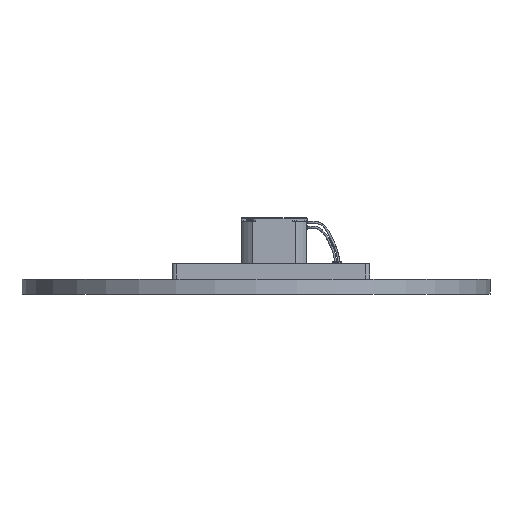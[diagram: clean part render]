
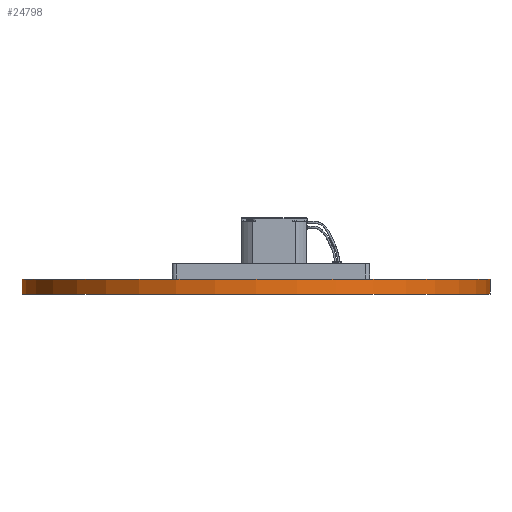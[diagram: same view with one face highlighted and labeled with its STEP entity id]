
A CAD part, front view. The second image highlights one B-rep face of the part: STEP entity #24798.
In plain terms, the highlighted cylindrical face has radius 150 mm (diameter 300 mm), a partial arc.
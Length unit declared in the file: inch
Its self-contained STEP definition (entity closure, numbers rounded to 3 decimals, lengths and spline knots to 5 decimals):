
#20 = DIRECTION ( 'NONE',  ( 0., 0., 1. ) ) ;
#42 = DIRECTION ( 'NONE',  ( 1., 0., 0. ) ) ;
#324 = ORIENTED_EDGE ( 'NONE', *, *, #35891, .F. ) ;
#334 = VECTOR ( 'NONE', #1323, 39.37008 ) ;
#971 = CIRCLE ( 'NONE', #12344, 5.90551 ) ;
#1323 = DIRECTION ( 'NONE',  ( 0., 0., -1. ) ) ;
#2276 = CARTESIAN_POINT ( 'NONE',  ( 0., 0., 0.375 ) ) ;
#3529 = CIRCLE ( 'NONE', #33922, 5.90551 ) ;
#4475 = CARTESIAN_POINT ( 'NONE',  ( -5.90551, 0., 0.375 ) ) ;
#6130 = VECTOR ( 'NONE', #36335, 39.37008 ) ;
#8062 = LINE ( 'NONE', #4475, #6130 ) ;
#10296 = DIRECTION ( 'NONE',  ( 1., 0., 0. ) ) ;
#10689 = VERTEX_POINT ( 'NONE', #30647 ) ;
#10992 = CARTESIAN_POINT ( 'NONE',  ( 0., 0., 0.375 ) ) ;
#11325 = VERTEX_POINT ( 'NONE', #15496 ) ;
#11815 = FACE_OUTER_BOUND ( 'NONE', #27898, .T. ) ;
#12344 = AXIS2_PLACEMENT_3D ( 'NONE', #10992, #39741, #42 ) ;
#12482 = LINE ( 'NONE', #19377, #334 ) ;
#12600 = ORIENTED_EDGE ( 'NONE', *, *, #20684, .T. ) ;
#15496 = CARTESIAN_POINT ( 'NONE',  ( -5.90551, 0., 0. ) ) ;
#15765 = VERTEX_POINT ( 'NONE', #28445 ) ;
#15853 = DIRECTION ( 'NONE',  ( 0., 0., -1. ) ) ;
#16694 = ORIENTED_EDGE ( 'NONE', *, *, #32037, .T. ) ;
#19241 = CARTESIAN_POINT ( 'NONE',  ( -5.90551, 0., 0.375 ) ) ;
#19377 = CARTESIAN_POINT ( 'NONE',  ( 5.90551, 0., 0.375 ) ) ;
#20684 = EDGE_CURVE ( 'NONE', #11325, #15765, #3529, .T. ) ;
#21327 = EDGE_CURVE ( 'NONE', #39972, #10689, #971, .T. ) ;
#23259 = DIRECTION ( 'NONE',  ( -1., 0., 0. ) ) ;
#24798 = ADVANCED_FACE ( 'NONE', ( #11815 ), #26090, .T. ) ;
#26090 = CYLINDRICAL_SURFACE ( 'NONE', #41456, 5.90551 ) ;
#27898 = EDGE_LOOP ( 'NONE', ( #324, #33764, #16694, #12600 ) ) ;
#28445 = CARTESIAN_POINT ( 'NONE',  ( 5.90551, 0., 0. ) ) ;
#30647 = CARTESIAN_POINT ( 'NONE',  ( 5.90551, 0., 0.375 ) ) ;
#32037 = EDGE_CURVE ( 'NONE', #39972, #11325, #8062, .T. ) ;
#33764 = ORIENTED_EDGE ( 'NONE', *, *, #21327, .F. ) ;
#33922 = AXIS2_PLACEMENT_3D ( 'NONE', #35716, #20, #10296 ) ;
#35716 = CARTESIAN_POINT ( 'NONE',  ( 0., 0., 0. ) ) ;
#35891 = EDGE_CURVE ( 'NONE', #10689, #15765, #12482, .T. ) ;
#36335 = DIRECTION ( 'NONE',  ( 0., 0., -1. ) ) ;
#39741 = DIRECTION ( 'NONE',  ( 0., 0., 1. ) ) ;
#39972 = VERTEX_POINT ( 'NONE', #19241 ) ;
#41456 = AXIS2_PLACEMENT_3D ( 'NONE', #2276, #15853, #23259 ) ;
